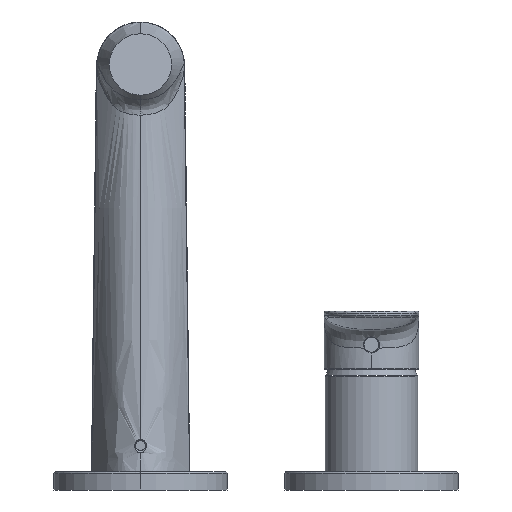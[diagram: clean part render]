
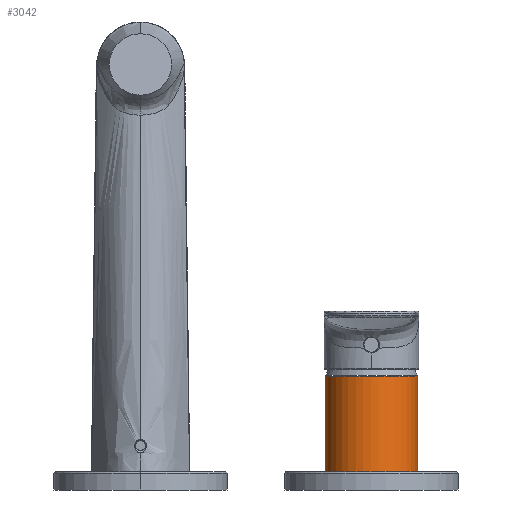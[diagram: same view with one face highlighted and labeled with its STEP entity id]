
A CAD part, front view. The second image highlights one B-rep face of the part: STEP entity #3042.
In plain terms, the highlighted cylindrical face has radius 20 mm (diameter 40 mm), a partial arc.
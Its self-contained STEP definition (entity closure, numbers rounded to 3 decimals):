
#252 = ORIENTED_EDGE ( 'NONE', *, *, #7792, .F. ) ;
#267 = CARTESIAN_POINT ( 'NONE',  ( 120., 0., 47.9 ) ) ;
#488 = CYLINDRICAL_SURFACE ( 'NONE', #9571, 20. ) ;
#653 = EDGE_CURVE ( 'NONE', #7238, #846, #7874, .T. ) ;
#846 = VERTEX_POINT ( 'NONE', #8252 ) ;
#1367 = DIRECTION ( 'NONE',  ( 0., 0., -1. ) ) ;
#1523 = CARTESIAN_POINT ( 'NONE',  ( 80., 0., -0.9 ) ) ;
#1754 = DIRECTION ( 'NONE',  ( 0., 0., -1. ) ) ;
#1788 = DIRECTION ( 'NONE',  ( 0., 0., -1. ) ) ;
#3042 = ADVANCED_FACE ( 'NONE', ( #8407 ), #488, .T. ) ;
#3221 = EDGE_LOOP ( 'NONE', ( #252, #10161, #8319, #3336 ) ) ;
#3336 = ORIENTED_EDGE ( 'NONE', *, *, #653, .T. ) ;
#3363 = LINE ( 'NONE', #267, #8503 ) ;
#4214 = EDGE_CURVE ( 'NONE', #9616, #7238, #9776, .T. ) ;
#4511 = DIRECTION ( 'NONE',  ( -1., 0., 0. ) ) ;
#4937 = DIRECTION ( 'NONE',  ( -1., 0., 0. ) ) ;
#5234 = CARTESIAN_POINT ( 'NONE',  ( 100., 0., 47.9 ) ) ;
#5360 = DIRECTION ( 'NONE',  ( -1., 0., 0. ) ) ;
#5663 = AXIS2_PLACEMENT_3D ( 'NONE', #8872, #1788, #4937 ) ;
#5754 = VERTEX_POINT ( 'NONE', #8470 ) ;
#6967 = DIRECTION ( 'NONE',  ( 0., 0., 1. ) ) ;
#7135 = CARTESIAN_POINT ( 'NONE',  ( 80., 0., 47.7 ) ) ;
#7238 = VERTEX_POINT ( 'NONE', #1523 ) ;
#7410 = DIRECTION ( 'NONE',  ( 0., 0., -1. ) ) ;
#7792 = EDGE_CURVE ( 'NONE', #5754, #846, #3363, .T. ) ;
#7874 = CIRCLE ( 'NONE', #9856, 20. ) ;
#7943 = CARTESIAN_POINT ( 'NONE',  ( 100., 0., -0.9 ) ) ;
#8228 = CARTESIAN_POINT ( 'NONE',  ( 80., 0., 47.9 ) ) ;
#8252 = CARTESIAN_POINT ( 'NONE',  ( 120., 0., -0.9 ) ) ;
#8319 = ORIENTED_EDGE ( 'NONE', *, *, #4214, .T. ) ;
#8407 = FACE_OUTER_BOUND ( 'NONE', #3221, .T. ) ;
#8470 = CARTESIAN_POINT ( 'NONE',  ( 120., 0., 47.7 ) ) ;
#8503 = VECTOR ( 'NONE', #7410, 1000. ) ;
#8872 = CARTESIAN_POINT ( 'NONE',  ( 100., 0., 47.7 ) ) ;
#9195 = EDGE_CURVE ( 'NONE', #5754, #9616, #10155, .T. ) ;
#9571 = AXIS2_PLACEMENT_3D ( 'NONE', #5234, #1367, #4511 ) ;
#9616 = VERTEX_POINT ( 'NONE', #7135 ) ;
#9695 = VECTOR ( 'NONE', #1754, 1000. ) ;
#9776 = LINE ( 'NONE', #8228, #9695 ) ;
#9856 = AXIS2_PLACEMENT_3D ( 'NONE', #7943, #6967, #5360 ) ;
#10155 = CIRCLE ( 'NONE', #5663, 20. ) ;
#10161 = ORIENTED_EDGE ( 'NONE', *, *, #9195, .T. ) ;
